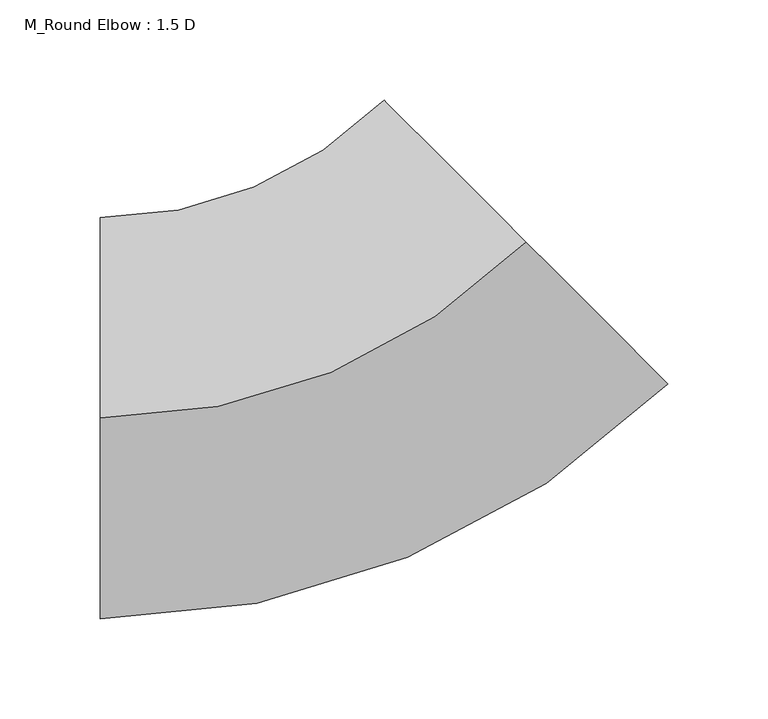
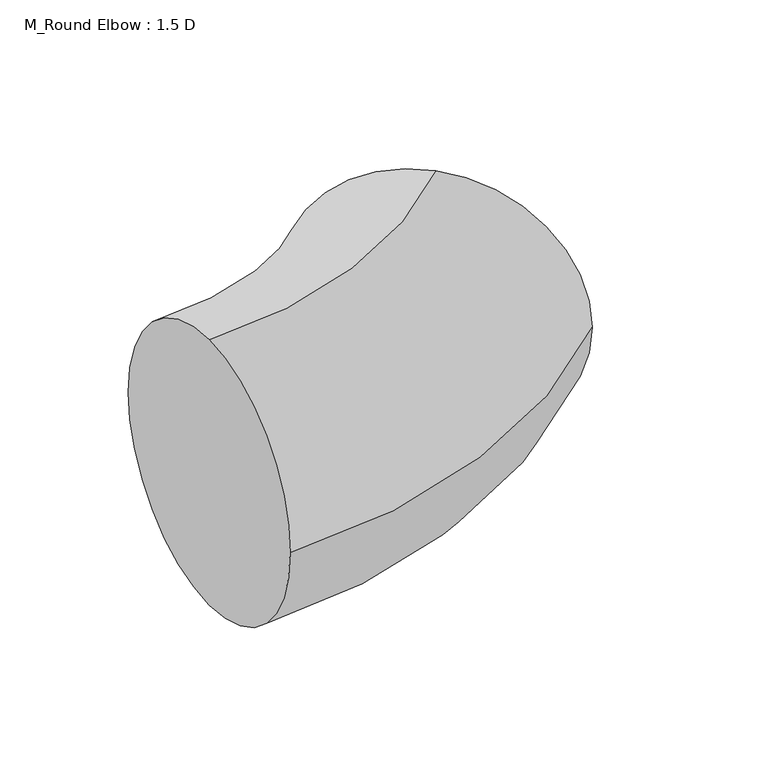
"""IFC4 building model written with IfcOpenShell, lengths in millimetres: duct fitting geometry, M_Round Elbow : 1.5 D."""

from ifc_helpers import new_model, si_unit, point, frame, origin, place, context, project, spatial, circle_curve, ellipse_curve, trimmed, source, transform, mapped, element, save
from ifc_brep_helpers import plane_surface, revolved_surface, advanced_brep


def m_round_elbow_1_5_d_f3829448(model_context):
    return source(origin(), model_context, "Body", "AdvancedBrep", [
        advanced_brep(
        [(-124.2640687, 0.0, 100.0), (-124.2640687, 100.0, 0.0), (-124.2640687, 0.0, -100.0), (-124.2640687, -100.0, 0.0), (87.8679656, 87.8679656, 100.0), (158.5786438, 17.1572875, 0.0), (87.8679656, 87.8679656, -100.0), (17.1572875, 158.5786438, 0.0)],
        [
            (0, 1, circle_curve(frame((-124.2640687, 0.0, 0.0), z_axis=(-1.0, 0.0, 0.0), x_axis=(0.0, 1.0, 0.0)), 100.0)),
            (1, 2, circle_curve(frame((-124.2640687, 0.0, 0.0), z_axis=(-1.0, 0.0, 0.0), x_axis=(0.0, 1.0, 0.0)), 100.0)),
            (2, 3, circle_curve(frame((-124.2640687, 0.0, 0.0), z_axis=(-1.0, 0.0, 0.0), x_axis=(0.0, 1.0, 0.0)), 100.0)),
            (3, 0, circle_curve(frame((-124.2640687, 0.0, 0.0), z_axis=(-1.0, 0.0, 0.0), x_axis=(0.0, 1.0, 0.0)), 100.0)),
            (4, 5, circle_curve(frame((87.8679656, 87.8679656, 0.0), z_axis=(0.707106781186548, 0.707106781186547, 0.0), x_axis=(-0.707106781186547, 0.707106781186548, 0.0)), 100.0)),
            (5, 6, circle_curve(frame((87.8679656, 87.8679656, 0.0), z_axis=(0.707106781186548, 0.707106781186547, 0.0), x_axis=(-0.707106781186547, 0.707106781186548, 0.0)), 100.0)),
            (6, 7, circle_curve(frame((87.8679656, 87.8679656, 0.0), z_axis=(0.707106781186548, 0.707106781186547, 0.0), x_axis=(-0.707106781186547, 0.707106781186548, 0.0)), 100.0)),
            (7, 4, circle_curve(frame((87.8679656, 87.8679656, 0.0), z_axis=(0.707106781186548, 0.707106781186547, 0.0), x_axis=(-0.707106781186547, 0.707106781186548, 0.0)), 100.0)),
            (7, 1, circle_curve(frame((-124.2640687, 300.0, 0.0), z_axis=(0.0, 0.0, -1.0), x_axis=(0.0, -1.0, 0.0)), 200.0)),
            (0, 4, circle_curve(frame((-124.2640687, 300.0, 100.0), z_axis=(0.0, 0.0, 1.0), x_axis=(0.0, -1.0, 0.0)), 300.0)),
            (6, 2, circle_curve(frame((-124.2640687, 300.0, -100.0), z_axis=(0.0, 0.0, -1.0), x_axis=(0.0, -1.0, 0.0)), 300.0)),
            (5, 3, circle_curve(frame((-124.2640687, 300.0, 0.0), z_axis=(0.0, 0.0, -1.0), x_axis=(0.0, -1.0, 0.0)), 400.0)),
        ],
        [
            plane_surface(frame((-124.2640687, 0.0, 0.0), z_axis=(-1.0, 0.0, 0.0), x_axis=(0.0, 0.0, 1.0))),
            plane_surface(frame((87.8679656, 87.8679656, 0.0), z_axis=(0.707106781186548, 0.7071067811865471, 0.0), x_axis=(0.0, 0.0, 1.0))),
            revolved_surface(trimmed(ellipse_curve(frame((-124.2640687, 0.0, 0.0), z_axis=(-1.0, 0.0, 0.0), x_axis=(0.0, 1.0, 0.0)), 100.0, 100.0), [point((-124.2640687, 0.0, 100.0))], [point((-124.2640687, 100.0, 0.0))], True, "CARTESIAN"), (-124.2640687, 300.0, 0.0), (0.0, 0.0, 1.0)),
            revolved_surface(trimmed(ellipse_curve(frame((-124.2640687, 0.0, 0.0), z_axis=(-1.0, 0.0, 0.0), x_axis=(0.0, 1.0, 0.0)), 100.0, 100.0), [point((-124.2640687, 100.0, 0.0))], [point((-124.2640687, 0.0, -100.0))], True, "CARTESIAN"), (-124.2640687, 300.0, 0.0), (0.0, 0.0, 1.0)),
            revolved_surface(trimmed(ellipse_curve(frame((-124.2640687, 0.0, 0.0), z_axis=(-1.0, 0.0, 0.0), x_axis=(0.0, 1.0, 0.0)), 100.0, 100.0), [point((-124.2640687, 0.0, -100.0))], [point((-124.2640687, -100.0, 0.0))], True, "CARTESIAN"), (-124.2640687, 300.0, 0.0), (0.0, 0.0, 1.0)),
            revolved_surface(trimmed(ellipse_curve(frame((-124.2640687, 0.0, 0.0), z_axis=(-1.0, 0.0, 0.0), x_axis=(0.0, 1.0, 0.0)), 100.0, 100.0), [point((-124.2640687, -100.0, 0.0))], [point((-124.2640687, 0.0, 100.0))], True, "CARTESIAN"), (-124.2640687, 300.0, 0.0), (0.0, 0.0, 1.0)),
        ],
        [
            (0, [[1, 2, 3, 4]]),
            (1, [[5, 6, 7, 8]]),
            (2, [[9, -1, 10, -8]]),
            (3, [[11, -2, -9, -7]]),
            (4, [[12, -3, -11, -6]]),
            (5, [[-10, -4, -12, -5]]),
        ],
    ),
        advanced_brep(
        [(-124.2640687, 0.0, 100.0), (-124.2640687, 100.0, 0.0), (-124.2640687, 0.0, -100.0), (-124.2640687, -100.0, 0.0), (87.8679656, 87.8679656, 100.0), (158.5786438, 17.1572875, 0.0), (87.8679656, 87.8679656, -100.0), (17.1572875, 158.5786438, 0.0)],
        [
            (0, 1, circle_curve(frame((-124.2640687, 0.0, 0.0), z_axis=(-1.0, 0.0, 0.0), x_axis=(0.0, 1.0, 0.0)), 100.0)),
            (1, 2, circle_curve(frame((-124.2640687, 0.0, 0.0), z_axis=(-1.0, 0.0, 0.0), x_axis=(0.0, 1.0, 0.0)), 100.0)),
            (2, 3, circle_curve(frame((-124.2640687, 0.0, 0.0), z_axis=(-1.0, 0.0, 0.0), x_axis=(0.0, 1.0, 0.0)), 100.0)),
            (3, 0, circle_curve(frame((-124.2640687, 0.0, 0.0), z_axis=(-1.0, 0.0, 0.0), x_axis=(0.0, 1.0, 0.0)), 100.0)),
            (4, 5, circle_curve(frame((87.8679656, 87.8679656, 0.0), z_axis=(0.707106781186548, 0.707106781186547, 0.0), x_axis=(-0.707106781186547, 0.707106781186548, 0.0)), 100.0)),
            (5, 6, circle_curve(frame((87.8679656, 87.8679656, 0.0), z_axis=(0.707106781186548, 0.707106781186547, 0.0), x_axis=(-0.707106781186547, 0.707106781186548, 0.0)), 100.0)),
            (6, 7, circle_curve(frame((87.8679656, 87.8679656, 0.0), z_axis=(0.707106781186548, 0.707106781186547, 0.0), x_axis=(-0.707106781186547, 0.707106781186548, 0.0)), 100.0)),
            (7, 4, circle_curve(frame((87.8679656, 87.8679656, 0.0), z_axis=(0.707106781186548, 0.707106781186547, 0.0), x_axis=(-0.707106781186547, 0.707106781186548, 0.0)), 100.0)),
            (7, 1, circle_curve(frame((-124.2640687, 300.0, 0.0), z_axis=(0.0, 0.0, -1.0), x_axis=(0.0, -1.0, 0.0)), 200.0)),
            (0, 4, circle_curve(frame((-124.2640687, 300.0, 100.0), z_axis=(0.0, 0.0, 1.0), x_axis=(0.0, -1.0, 0.0)), 300.0)),
            (6, 2, circle_curve(frame((-124.2640687, 300.0, -100.0), z_axis=(0.0, 0.0, -1.0), x_axis=(0.0, -1.0, 0.0)), 300.0)),
            (5, 3, circle_curve(frame((-124.2640687, 300.0, 0.0), z_axis=(0.0, 0.0, -1.0), x_axis=(0.0, -1.0, 0.0)), 400.0)),
        ],
        [
            plane_surface(frame((-124.2640687, 0.0, 0.0), z_axis=(-1.0, 0.0, 0.0), x_axis=(0.0, 0.0, 1.0))),
            plane_surface(frame((87.8679656, 87.8679656, 0.0), z_axis=(0.707106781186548, 0.7071067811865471, 0.0), x_axis=(0.0, 0.0, 1.0))),
            revolved_surface(trimmed(ellipse_curve(frame((-124.2640687, 0.0, 0.0), z_axis=(-1.0, 0.0, 0.0), x_axis=(0.0, 1.0, 0.0)), 100.0, 100.0), [point((-124.2640687, 0.0, 100.0))], [point((-124.2640687, 100.0, 0.0))], True, "CARTESIAN"), (-124.2640687, 300.0, 0.0), (0.0, 0.0, 1.0)),
            revolved_surface(trimmed(ellipse_curve(frame((-124.2640687, 0.0, 0.0), z_axis=(-1.0, 0.0, 0.0), x_axis=(0.0, 1.0, 0.0)), 100.0, 100.0), [point((-124.2640687, 100.0, 0.0))], [point((-124.2640687, 0.0, -100.0))], True, "CARTESIAN"), (-124.2640687, 300.0, 0.0), (0.0, 0.0, 1.0)),
            revolved_surface(trimmed(ellipse_curve(frame((-124.2640687, 0.0, 0.0), z_axis=(-1.0, 0.0, 0.0), x_axis=(0.0, 1.0, 0.0)), 100.0, 100.0), [point((-124.2640687, 0.0, -100.0))], [point((-124.2640687, -100.0, 0.0))], True, "CARTESIAN"), (-124.2640687, 300.0, 0.0), (0.0, 0.0, 1.0)),
            revolved_surface(trimmed(ellipse_curve(frame((-124.2640687, 0.0, 0.0), z_axis=(-1.0, 0.0, 0.0), x_axis=(0.0, 1.0, 0.0)), 100.0, 100.0), [point((-124.2640687, -100.0, 0.0))], [point((-124.2640687, 0.0, 100.0))], True, "CARTESIAN"), (-124.2640687, 300.0, 0.0), (0.0, 0.0, 1.0)),
        ],
        [
            (0, [[1, 2, 3, 4]]),
            (1, [[5, 6, 7, 8]]),
            (2, [[9, -1, 10, -8]]),
            (3, [[11, -2, -9, -7]]),
            (4, [[12, -3, -11, -6]]),
            (5, [[-10, -4, -12, -5]]),
        ],
    ),
        advanced_brep(
        [(-124.2640687, 0.0, 100.0), (-124.2640687, 100.0, 0.0), (-124.2640687, 0.0, -100.0), (-124.2640687, -100.0, 0.0), (87.8679656, 87.8679656, 100.0), (158.5786438, 17.1572875, 0.0), (87.8679656, 87.8679656, -100.0), (17.1572875, 158.5786438, 0.0)],
        [
            (0, 1, circle_curve(frame((-124.2640687, 0.0, 0.0), z_axis=(-1.0, 0.0, 0.0), x_axis=(0.0, 1.0, 0.0)), 100.0)),
            (1, 2, circle_curve(frame((-124.2640687, 0.0, 0.0), z_axis=(-1.0, 0.0, 0.0), x_axis=(0.0, 1.0, 0.0)), 100.0)),
            (2, 3, circle_curve(frame((-124.2640687, 0.0, 0.0), z_axis=(-1.0, 0.0, 0.0), x_axis=(0.0, 1.0, 0.0)), 100.0)),
            (3, 0, circle_curve(frame((-124.2640687, 0.0, 0.0), z_axis=(-1.0, 0.0, 0.0), x_axis=(0.0, 1.0, 0.0)), 100.0)),
            (4, 5, circle_curve(frame((87.8679656, 87.8679656, 0.0), z_axis=(0.707106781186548, 0.707106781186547, 0.0), x_axis=(-0.707106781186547, 0.707106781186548, 0.0)), 100.0)),
            (5, 6, circle_curve(frame((87.8679656, 87.8679656, 0.0), z_axis=(0.707106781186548, 0.707106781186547, 0.0), x_axis=(-0.707106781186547, 0.707106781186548, 0.0)), 100.0)),
            (6, 7, circle_curve(frame((87.8679656, 87.8679656, 0.0), z_axis=(0.707106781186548, 0.707106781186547, 0.0), x_axis=(-0.707106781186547, 0.707106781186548, 0.0)), 100.0)),
            (7, 4, circle_curve(frame((87.8679656, 87.8679656, 0.0), z_axis=(0.707106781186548, 0.707106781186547, 0.0), x_axis=(-0.707106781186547, 0.707106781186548, 0.0)), 100.0)),
            (7, 1, circle_curve(frame((-124.2640687, 300.0, 0.0), z_axis=(0.0, 0.0, -1.0), x_axis=(0.0, -1.0, 0.0)), 200.0)),
            (0, 4, circle_curve(frame((-124.2640687, 300.0, 100.0), z_axis=(0.0, 0.0, 1.0), x_axis=(0.0, -1.0, 0.0)), 300.0)),
            (6, 2, circle_curve(frame((-124.2640687, 300.0, -100.0), z_axis=(0.0, 0.0, -1.0), x_axis=(0.0, -1.0, 0.0)), 300.0)),
            (5, 3, circle_curve(frame((-124.2640687, 300.0, 0.0), z_axis=(0.0, 0.0, -1.0), x_axis=(0.0, -1.0, 0.0)), 400.0)),
        ],
        [
            plane_surface(frame((-124.2640687, 0.0, 0.0), z_axis=(-1.0, 0.0, 0.0), x_axis=(0.0, 0.0, 1.0))),
            plane_surface(frame((87.8679656, 87.8679656, 0.0), z_axis=(0.707106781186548, 0.7071067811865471, 0.0), x_axis=(0.0, 0.0, 1.0))),
            revolved_surface(trimmed(ellipse_curve(frame((-124.2640687, 0.0, 0.0), z_axis=(-1.0, 0.0, 0.0), x_axis=(0.0, 1.0, 0.0)), 100.0, 100.0), [point((-124.2640687, 0.0, 100.0))], [point((-124.2640687, 100.0, 0.0))], True, "CARTESIAN"), (-124.2640687, 300.0, 0.0), (0.0, 0.0, 1.0)),
            revolved_surface(trimmed(ellipse_curve(frame((-124.2640687, 0.0, 0.0), z_axis=(-1.0, 0.0, 0.0), x_axis=(0.0, 1.0, 0.0)), 100.0, 100.0), [point((-124.2640687, 100.0, 0.0))], [point((-124.2640687, 0.0, -100.0))], True, "CARTESIAN"), (-124.2640687, 300.0, 0.0), (0.0, 0.0, 1.0)),
            revolved_surface(trimmed(ellipse_curve(frame((-124.2640687, 0.0, 0.0), z_axis=(-1.0, 0.0, 0.0), x_axis=(0.0, 1.0, 0.0)), 100.0, 100.0), [point((-124.2640687, 0.0, -100.0))], [point((-124.2640687, -100.0, 0.0))], True, "CARTESIAN"), (-124.2640687, 300.0, 0.0), (0.0, 0.0, 1.0)),
            revolved_surface(trimmed(ellipse_curve(frame((-124.2640687, 0.0, 0.0), z_axis=(-1.0, 0.0, 0.0), x_axis=(0.0, 1.0, 0.0)), 100.0, 100.0), [point((-124.2640687, -100.0, 0.0))], [point((-124.2640687, 0.0, 100.0))], True, "CARTESIAN"), (-124.2640687, 300.0, 0.0), (0.0, 0.0, 1.0)),
        ],
        [
            (0, [[1, 2, 3, 4]]),
            (1, [[5, 6, 7, 8]]),
            (2, [[9, -1, 10, -8]]),
            (3, [[11, -2, -9, -7]]),
            (4, [[12, -3, -11, -6]]),
            (5, [[-10, -4, -12, -5]]),
        ],
    ),
    ])


if __name__ == "__main__":
    model = new_model("IFC4")
    model_context = context("Model", 3, world=origin())
    ifc_project = project(units=[si_unit("LENGTHUNIT", "METRE", prefix="MILLI")], contexts=[model_context])
    site = spatial("IfcSite", under=ifc_project)
    building = spatial("IfcBuilding", under=site)
    placement = place(None, origin())
    m_round_elbow_1_5_d_shape = m_round_elbow_1_5_d_f3829448(model_context)
    element("IfcDuctFitting", 1, ObjectType="M_Round Elbow : 1.5 D", at=placement, inside=building, context=model_context, shape_type="MappedRepresentation", body=[
        mapped(m_round_elbow_1_5_d_shape, transform((0.0, 0.0, 0.0), x_axis=(1.0, 0.0, 0.0), y_axis=(0.0, 1.0, 0.0), z_axis=(0.0, 0.0, 1.0))),
    ])
    save(model, "model.ifc")
